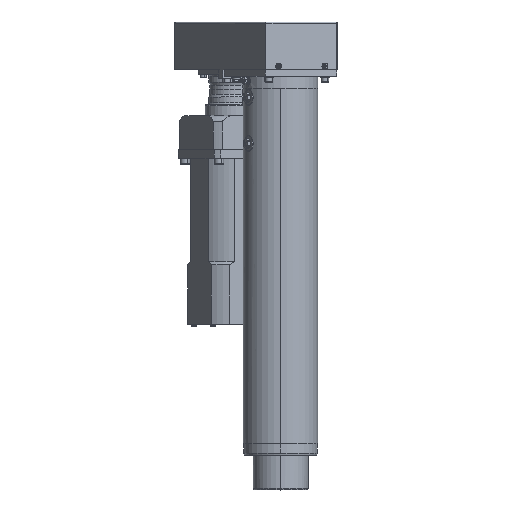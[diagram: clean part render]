
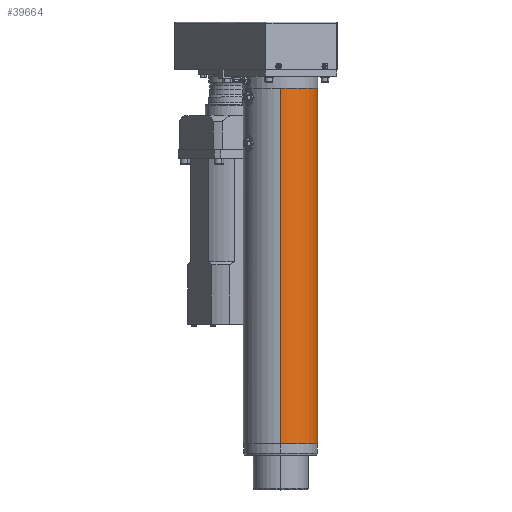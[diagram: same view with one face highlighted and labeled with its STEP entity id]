
A CAD part, top view. The second image highlights one B-rep face of the part: STEP entity #39664.
In plain terms, the highlighted cylindrical face has radius 64.5 mm (diameter 129 mm), a partial arc.
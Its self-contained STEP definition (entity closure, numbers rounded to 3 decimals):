
#3157 = AXIS2_PLACEMENT_3D ( 'NONE', #23087, #29691, #26642 ) ;
#3258 = CYLINDRICAL_SURFACE ( 'NONE', #28888, 64.5 ) ;
#3405 = EDGE_CURVE ( 'NONE', #15632, #30070, #20260, .T. ) ;
#3560 = CARTESIAN_POINT ( 'NONE',  ( 0., 20., 0. ) ) ;
#4700 = VECTOR ( 'NONE', #36644, 1000. ) ;
#6593 = LINE ( 'NONE', #30385, #4700 ) ;
#6743 = DIRECTION ( 'NONE',  ( 0., 0., -1. ) ) ;
#8046 = CARTESIAN_POINT ( 'NONE',  ( 0., 0., 64.5 ) ) ;
#12918 = DIRECTION ( 'NONE',  ( 0., 0., -1. ) ) ;
#15512 = ORIENTED_EDGE ( 'NONE', *, *, #33967, .T. ) ;
#15632 = VERTEX_POINT ( 'NONE', #25323 ) ;
#16031 = ORIENTED_EDGE ( 'NONE', *, *, #36610, .F. ) ;
#16311 = AXIS2_PLACEMENT_3D ( 'NONE', #3560, #25541, #6743 ) ;
#16836 = DIRECTION ( 'NONE',  ( 0., -1., 0. ) ) ;
#16926 = VECTOR ( 'NONE', #27672, 1000. ) ;
#20260 = CIRCLE ( 'NONE', #16311, 64.5 ) ;
#21022 = ORIENTED_EDGE ( 'NONE', *, *, #3405, .F. ) ;
#23087 = CARTESIAN_POINT ( 'NONE',  ( 0., 633.5, 0. ) ) ;
#25323 = CARTESIAN_POINT ( 'NONE',  ( 0., 20., -64.5 ) ) ;
#25541 = DIRECTION ( 'NONE',  ( 0., -1., 0. ) ) ;
#25935 = CARTESIAN_POINT ( 'NONE',  ( 0., 633.5, 64.5 ) ) ;
#26642 = DIRECTION ( 'NONE',  ( 0., 0., -1. ) ) ;
#27510 = CARTESIAN_POINT ( 'NONE',  ( 0., 0., 0. ) ) ;
#27672 = DIRECTION ( 'NONE',  ( 0., -1., 0. ) ) ;
#27743 = VERTEX_POINT ( 'NONE', #25935 ) ;
#27947 = EDGE_CURVE ( 'NONE', #39084, #27743, #34074, .T. ) ;
#28888 = AXIS2_PLACEMENT_3D ( 'NONE', #27510, #16836, #12918 ) ;
#29691 = DIRECTION ( 'NONE',  ( 0., -1., 0. ) ) ;
#30070 = VERTEX_POINT ( 'NONE', #32317 ) ;
#30385 = CARTESIAN_POINT ( 'NONE',  ( 0., 0., -64.5 ) ) ;
#30495 = EDGE_LOOP ( 'NONE', ( #34937, #15512, #21022, #16031 ) ) ;
#31415 = FACE_OUTER_BOUND ( 'NONE', #30495, .T. ) ;
#32317 = CARTESIAN_POINT ( 'NONE',  ( 0., 20., 64.5 ) ) ;
#33967 = EDGE_CURVE ( 'NONE', #27743, #30070, #40441, .T. ) ;
#34074 = CIRCLE ( 'NONE', #3157, 64.5 ) ;
#34937 = ORIENTED_EDGE ( 'NONE', *, *, #27947, .T. ) ;
#36610 = EDGE_CURVE ( 'NONE', #39084, #15632, #6593, .T. ) ;
#36644 = DIRECTION ( 'NONE',  ( 0., -1., 0. ) ) ;
#38611 = CARTESIAN_POINT ( 'NONE',  ( 0., 633.5, -64.5 ) ) ;
#39084 = VERTEX_POINT ( 'NONE', #38611 ) ;
#39664 = ADVANCED_FACE ( 'NONE', ( #31415 ), #3258, .T. ) ;
#40441 = LINE ( 'NONE', #8046, #16926 ) ;
